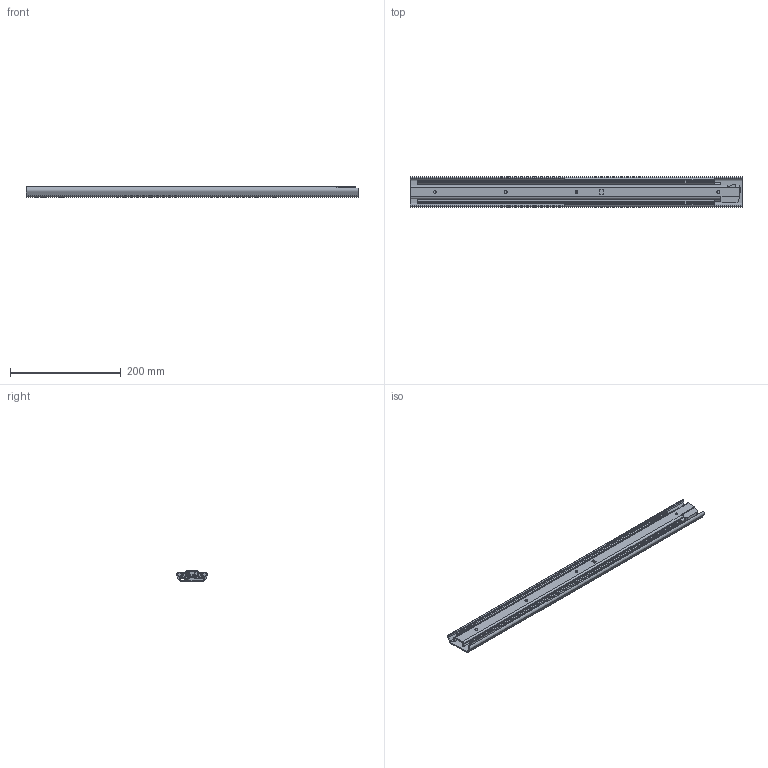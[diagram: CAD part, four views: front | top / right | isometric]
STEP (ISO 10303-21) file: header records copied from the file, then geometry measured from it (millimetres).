
FILE_DESCRIPTION( ( 'STEP AP203' ), '1' );
FILE_NAME( 'C:/Temp/Ganter_Step_05_03_2020/data/3_8/gn1422/Telescopic slide GN 1422-600-B-2-ZB (0).stp', '2020-03-12T15:26:07', ( 'License CC BY-ND 4.0' ), ( 'CADENAS' ), ' ', 'PARTsolutions', ' ' );
FILE_SCHEMA( ( 'CONFIG_CONTROL_DESIGN' ) );
Length unit declared in the file: millimetre
Products named in the file (4): Telescopic slide GN 1422-600-B-2-ZB (0); _Telescopic slide GN 1422-600-B-2-ZB (0)-1; _Telescopic slide GN 1422-600-B-2-ZB (0)-2; _Telescopic slide GN 1422-600-B-2-ZB (0)-3
Assembly tree (3 placements, depth 2):
  Telescopic slide GN 1422-600-B-2-ZB (0)
    _Telescopic slide GN 1422-600-B-2-ZB (0)-1
    _Telescopic slide GN 1422-600-B-2-ZB (0)-2
    _Telescopic slide GN 1422-600-B-2-ZB (0)-3
Bounding box: 600 x 55.78 x 18.5 mm (x, y, z)
Volume: 244473.8 mm3; surface area: 262497 mm2
Topology: 3 solids, 3 shells, 322 faces, 946 edges, 621 vertices
Faces by surface type: plane 190, cylinder 124, cone 8
Full cylindrical faces by diameter (mm): 5 x4, 6.5 x4, 11 x3
Entity records: 10894 total; most frequent: CARTESIAN_POINT 1988, ORIENTED_EDGE 1848, DIRECTION 1833, EDGE_CURVE 924, LINE 643, VECTOR 643, VERTEX_POINT 618, AXIS2_PLACEMENT_3D 595
